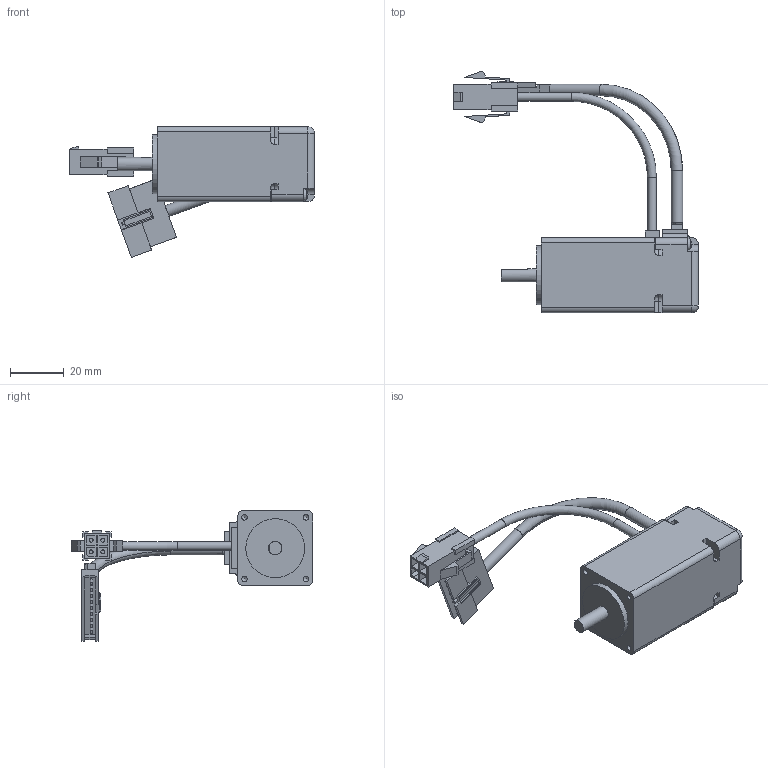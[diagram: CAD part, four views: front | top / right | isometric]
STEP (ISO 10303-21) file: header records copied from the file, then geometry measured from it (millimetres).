
FILE_DESCRIPTION(/* description */ (''),/* implementation_level */ '2;1');
FILE_NAME(/* name */ '\\EMN0D5F01\rp_inventor\RP Mechanical Design\Wiley\Updated Models\eCLM-S112F.stp',/* time_stamp */ '2016-10-27T15:32:00-07:00',/* author */ ('JDB'),/* organization */ ('Parker Hannifin Corp'),/* preprocessor_version */ 'ST-DEVELOPER v15.2',/* originating_system */ 'Autodesk Inventor 2014',/* authorisation */ '');
FILE_SCHEMA (('CONFIG_CONTROL_DESIGN'));
Length unit declared in the file: inch
Products named in the file (1): eCLM-S112F_sw
Bounding box: 91.38 x 90.11 x 48.79 mm (x, y, z)
Volume: 46973.3 mm3; surface area: 20144.8 mm2
Topology: 1 solids, 1 shells, 468 faces, 1197 edges, 759 vertices
Faces by surface type: plane 296, cylinder 112, cone 35, sphere 10, bspline 8, torus 7
Full cylindrical faces by diameter (mm): 1 x10, 1.5 x4, 1.75 x2, 2.05 x6, 2.3 x2, 2.5 x2, 2.6 x4, 3.3 x2, 4 x1, 4.3 x2, 5 x4, 5.5 x1, 6 x1, 9.2 x1, 17.5 x1, 22 x1
Entity records: 13582 total; most frequent: CARTESIAN_POINT 2532, DIRECTION 2324, ORIENTED_EDGE 2174, EDGE_CURVE 1087, AXIS2_PLACEMENT_3D 799, VERTEX_POINT 731, LINE 726, VECTOR 726
